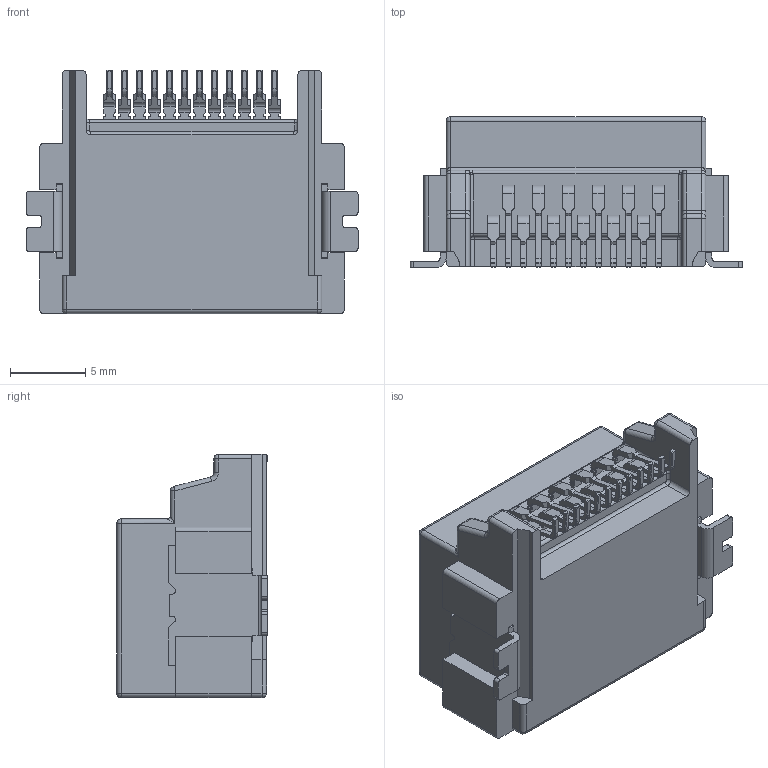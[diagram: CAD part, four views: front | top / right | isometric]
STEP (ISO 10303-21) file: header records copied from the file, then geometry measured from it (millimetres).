
FILE_DESCRIPTION (( 'STEP AP203' ), '1' );
FILE_NAME ('ISHV 12P MALE CONNECTOR.STEP', '2018-08-20T12:42:39', ( '' ), ( '' ), 'SwSTEP 2.0', 'SolidWorks 2017', '' );
FILE_SCHEMA (( 'CONFIG_CONTROL_DESIGN' ));
Length unit declared in the file: millimetre
Products named in the file (2): Part7^ISHV 12P MALE CONNECTOR; ISHV 12P MALE CONNECTOR
Assembly tree (1 placements, depth 2):
  ISHV 12P MALE CONNECTOR
    Part7^ISHV 12P MALE CONNECTOR
Bounding box: 22.1 x 10.02 x 16.2 mm (x, y, z)
Volume: 2311.5 mm3; surface area: 1368.1 mm2
Topology: 1 solids, 1 shells, 691 faces, 1931 edges, 1236 vertices
Faces by surface type: plane 450, cylinder 189, cone 24, sphere 14, torus 10, bspline 4
Entity records: 22135 total; most frequent: CARTESIAN_POINT 3988, ORIENTED_EDGE 3826, DIRECTION 3695, EDGE_CURVE 1913, VECTOR 1497, LINE 1497, VERTEX_POINT 1236, AXIS2_PLACEMENT_3D 1099
